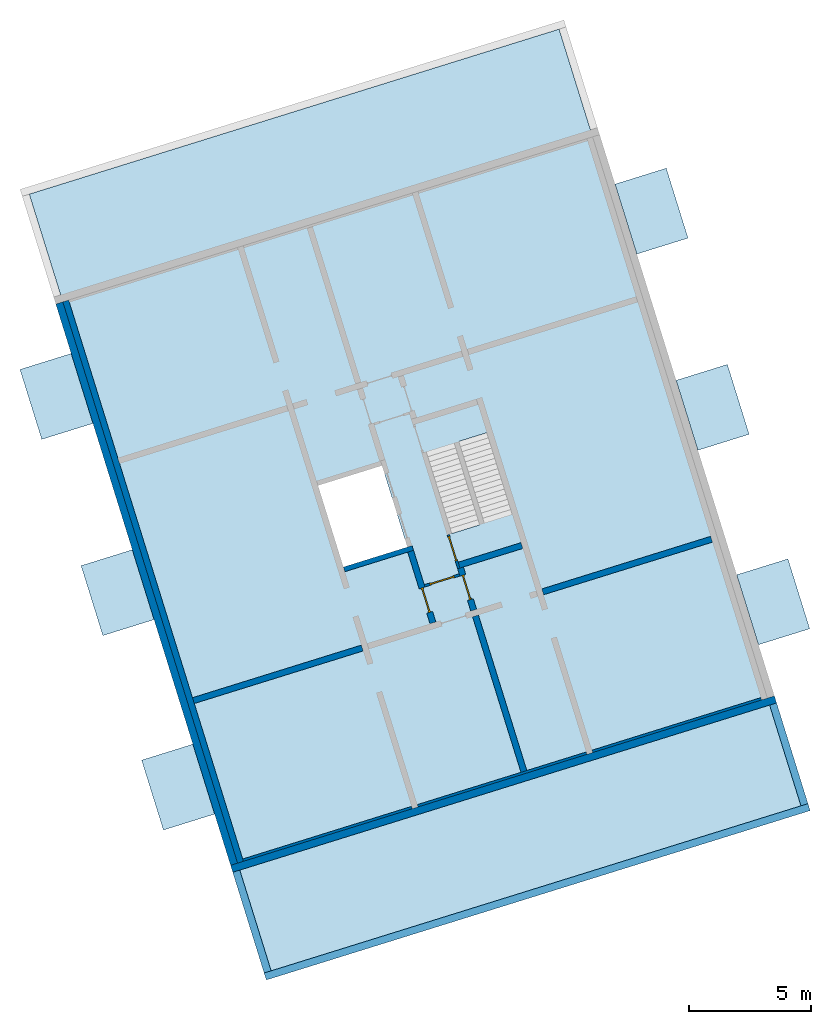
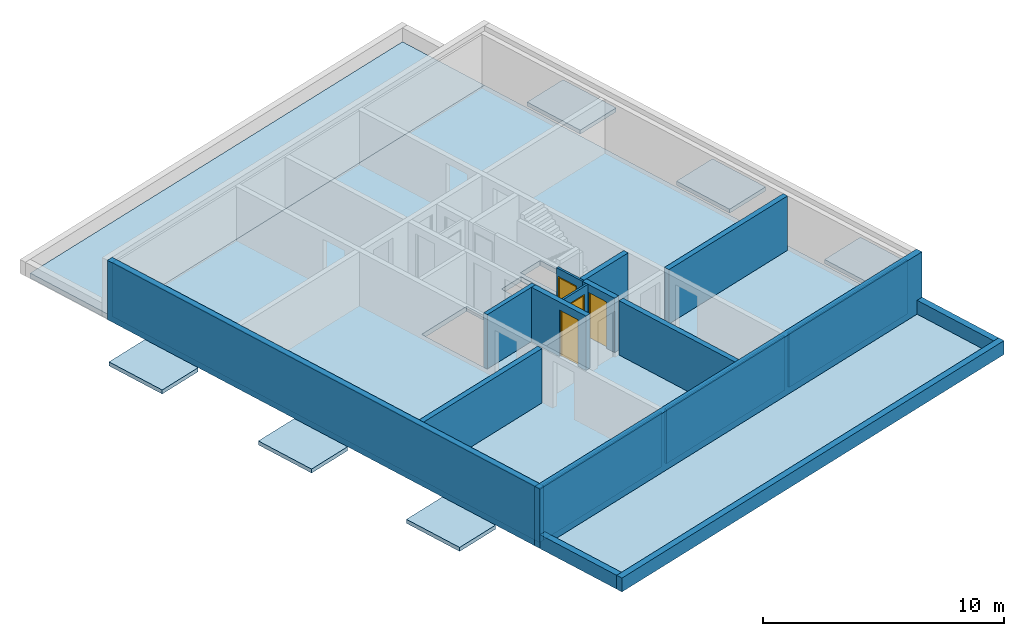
# One storey, part 1 of 4: 18 walls, 9 slabs, 4 doors, 6 openings.
"""IFC4 building model written with IfcOpenShell, lengths in metres."""

from ifc_helpers import new_model, entity, si_unit, converted_unit, direction, frame, origin, place, context, subcontext, project, spatial, indexed_curve, outline, extrude, polygons, source, transform, mapped, material, constituent, constituent_set, type_object, type_shapes, element, fill, save


model = new_model("IFC4")

# Units and contexts
model_context = context("Model", 3, precision=1e-05, world=origin(), true_north=direction((6.12323399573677e-17, 1.0)))
body_context = subcontext(model_context, "Body", "Model", "MODEL_VIEW")
ifc_project = project(units=[si_unit("LENGTHUNIT", "METRE"), si_unit("AREAUNIT", "SQUARE_METRE"), si_unit("VOLUMEUNIT", "CUBIC_METRE"), converted_unit("PLANEANGLEUNIT", "DEGREE", entity("IfcPlaneAngleMeasure", 0.0174532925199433), si_unit("PLANEANGLEUNIT", "RADIAN"), dimensions=[0, 0, 0, 0, 0, 0, 0])], contexts=[model_context])

# Site, building, storey
site_placement = place(None, frame((13.1347999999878, 11.9886000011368, 0.0), z_axis=(0.0, 0.0, 1.0), x_axis=(0.954770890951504, 0.297342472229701, 0.0)))
site = spatial("IfcSite", under=ifc_project, at=site_placement, Name="Schiehaven", CompositionType="ELEMENT")
building_placement = place(site_placement, origin())
building = spatial("IfcBuilding", under=site, at=building_placement, Name="VORM huis", CompositionType="ELEMENT")
storey_placement = place(building_placement, frame((0.0, 0.0, 6.9)))
storey = spatial("IfcBuildingStorey", under=building, at=storey_placement, Name="02 tweede verdieping", CompositionType="ELEMENT", Elevation=6.9)

# Slab, openings
ifc_material_1 = material(Name="beton_gewapend_ihw", Category="Miscellaneous")
slab_type_1 = type_object("IfcSlabType", Name="Floor:28_FL_skelet_vloer 250mm", PredefinedType="FLOOR", material=ifc_material_1)
slab_1_placement = place(storey_placement, origin())
slab_1 = element("IfcSlab", 1, at=slab_1_placement, inside=storey, type_object=slab_type_1, material=ifc_material_1, Name="Constructieve vloer", ObjectType="Vloer", PredefinedType="FLOOR", context=body_context, shape_type="SweptSolid", body=[
    extrude(outline(indexed_curve([(-12.05, -11.375), (12.05, -11.375), (12.05, 11.375), (-12.05, 11.375), (-12.05, -11.375)], self_intersect=False), holes=[indexed_curve([(-1.75000000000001, -3.62500000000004), (-1.75000000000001, -0.875000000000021), (1.74999999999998, -0.875000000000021), (1.74999999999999, -3.62500000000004), (-1.75000000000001, -3.62500000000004)], self_intersect=False), indexed_curve([(1.76, 2.22499999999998), (1.76, 1.02499999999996), (-1.54, 1.02499999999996), (-1.54, 2.22499999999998), (1.76, 2.22499999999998)], self_intersect=False), indexed_curve([(-1.75999999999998, 3.62499999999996), (1.54, 3.62499999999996), (1.54, 2.42499999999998), (-1.75999999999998, 2.42499999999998), (-1.75999999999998, 3.62499999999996)], self_intersect=False)]), frame((16.2500000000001, 17.05, -0.249999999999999), z_axis=(0.0, 0.0, 1.0), x_axis=(0.0, -1.0, 0.0)), (0.0, 0.0, 1.0), 0.249999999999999),
])
opening_1_placement = place(slab_1_placement, origin())
element("IfcOpeningElement", 2, at=opening_1_placement, cuts=slab_1, Name="Constructieve vloer", PredefinedType="OPENING", context=body_context, shape_type="SweptSolid", body=[
    extrude(outline(indexed_curve([(-1.74999999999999, -1.37500000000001), (1.75, -1.37500000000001), (1.75, 1.37500000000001), (-1.75, 1.37500000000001), (-1.74999999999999, -1.37500000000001)], self_intersect=False)), frame((14.0, 17.05, -0.249999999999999), z_axis=(0.0, 0.0, 1.0), x_axis=(0.0, -1.0, 0.0)), (0.0, 0.0, 1.0), 0.249999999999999),
])
opening_2_placement = place(slab_1_placement, origin())
element("IfcOpeningElement", 3, at=opening_2_placement, cuts=slab_1, Name="Constructieve vloer", PredefinedType="OPENING", context=body_context, shape_type="SweptSolid", body=[
    extrude(outline(indexed_curve([(-1.65, -0.60000000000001), (1.65, -0.600000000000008), (1.65, 0.600000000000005), (-1.65, 0.600000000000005), (-1.65, -0.60000000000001)], self_intersect=False)), frame((17.8750000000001, 16.94, -0.249999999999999), z_axis=(0.0, 0.0, 1.0), x_axis=(0.0, 1.0, 0.0)), (0.0, 0.0, 1.0), 0.249999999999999),
])

# Slabs
ifc_material_2 = material(Name="beton_gewapend_prefab-element", Category="Miscellaneous")
slab_type_2 = type_object("IfcSlabType", Name="Floor:23_FL_skelet_balkon 200mm", PredefinedType="FLOOR", material=ifc_material_2)
slab_2_placement = place(storey_placement, origin())
element("IfcSlab", 4, at=slab_2_placement, inside=storey, type_object=slab_type_2, material=ifc_material_2, Name="Balkonvloer", ObjectType="Vloer", PredefinedType="FLOOR", context=body_context, shape_type="SweptSolid", body=[
    extrude(outline(indexed_curve([(-1.5, -1.1), (1.5, -1.1), (1.5, 1.09999999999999), (-1.5, 1.09999999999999), (-1.5, -1.1)], self_intersect=False)), frame((29.0250000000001, 25.475, 0.0), z_axis=(0.0, 0.0, -1.0), x_axis=(0.0, 1.0, 0.0)), (0.0, 0.0, 1.0), 0.2),
])
slab_3_placement = place(storey_placement, origin())
element("IfcSlab", 5, at=slab_3_placement, inside=storey, type_object=slab_type_2, material=ifc_material_2, Name="Balkonvloer", ObjectType="Vloer", PredefinedType="FLOOR", context=body_context, shape_type="SweptSolid", body=[
    extrude(outline(indexed_curve([(-1.5, -1.1), (1.5, -1.1), (1.5, 1.1), (-1.5, 1.1), (-1.5, -1.1)], self_intersect=False)), frame((29.0250000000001, 8.70000000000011, 0.0), z_axis=(0.0, 0.0, -1.0), x_axis=(0.0, 1.0, 0.0)), (0.0, 0.0, 1.0), 0.2),
])
slab_4_placement = place(storey_placement, origin())
element("IfcSlab", 6, at=slab_4_placement, inside=storey, type_object=slab_type_2, material=ifc_material_2, Name="Balkonvloer", ObjectType="Vloer", PredefinedType="FLOOR", context=body_context, shape_type="SweptSolid", body=[
    extrude(outline(indexed_curve([(-1.5, -1.1), (1.5, -1.1), (1.5, 1.1), (-1.5, 1.1), (-1.5, -1.1)], self_intersect=False)), frame((29.0250000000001, 17.05, 0.0), z_axis=(0.0, 0.0, -1.0), x_axis=(0.0, 1.0, 0.0)), (0.0, 0.0, 1.0), 0.2),
])
slab_5_placement = place(storey_placement, origin())
element("IfcSlab", 7, at=slab_5_placement, inside=storey, type_object=slab_type_2, material=ifc_material_2, Name="Balkonvloer", ObjectType="Vloer", PredefinedType="FLOOR", context=body_context, shape_type="SweptSolid", body=[
    extrude(outline(indexed_curve([(-1.5, -1.09999999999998), (1.5, -1.09999999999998), (1.5, 1.09999999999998), (-1.5, 1.09999999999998), (-1.5, -1.09999999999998)], self_intersect=False)), frame((3.47500000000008, 25.4750000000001, 0.0), z_axis=(0.0, 0.0, -1.0), x_axis=(0.0, 1.0, 0.0)), (0.0, 0.0, 1.0), 0.2),
])
slab_6_placement = place(storey_placement, origin())
element("IfcSlab", 8, at=slab_6_placement, inside=storey, type_object=slab_type_2, material=ifc_material_2, Name="Balkonvloer", ObjectType="Vloer", PredefinedType="FLOOR", context=body_context, shape_type="SweptSolid", body=[
    extrude(outline(indexed_curve([(-1.5, -1.10000000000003), (1.5, -1.10000000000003), (1.5, 1.10000000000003), (-1.5, 1.10000000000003), (-1.5, -1.10000000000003)], self_intersect=False)), frame((3.47499999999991, 8.70000000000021, 0.0), z_axis=(0.0, 0.0, -1.0), x_axis=(0.0, 1.0, 0.0)), (0.0, 0.0, 1.0), 0.2),
])
slab_7_placement = place(storey_placement, origin())
element("IfcSlab", 9, at=slab_7_placement, inside=storey, type_object=slab_type_2, material=ifc_material_2, Name="Balkonvloer", ObjectType="Vloer", PredefinedType="FLOOR", context=body_context, shape_type="SweptSolid", body=[
    extrude(outline(indexed_curve([(-1.5, -1.10000000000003), (1.5, -1.10000000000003), (1.5, 1.10000000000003), (-1.5, 1.10000000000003), (-1.5, -1.10000000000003)], self_intersect=False)), frame((3.47499999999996, 17.0500000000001, 0.0), z_axis=(0.0, 0.0, -1.0), x_axis=(0.0, 1.0, 0.0)), (0.0, 0.0, 1.0), 0.2),
])
slab_type_3 = type_object("IfcSlabType", Name="Floor:28_FL_skelet_dakterrasvloer 250mm", PredefinedType="ROOF", material=ifc_material_1)
slab_8_placement = place(storey_placement, origin())
element("IfcSlab", 10, at=slab_8_placement, inside=storey, type_object=slab_type_3, material=ifc_material_1, Name="Begaanbare dakvloer", ObjectType="Vloer", PredefinedType="ROOF", context=body_context, shape_type="SweptSolid", body=[
    extrude(outline(indexed_curve([(-2.3125000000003, -11.3750000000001), (2.3125000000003, -11.3750000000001), (2.3125000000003, 11.3750000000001), (-2.3125000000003, 11.3750000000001), (-2.3125000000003, -11.3750000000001)], self_intersect=False)), frame((16.25, 2.68750000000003, 0.0), z_axis=(0.0, 0.0, -1.0), x_axis=(0.0, 1.0, 0.0)), (0.0, 0.0, 1.0), 0.249999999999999),
])
slab_9_placement = place(storey_placement, origin())
element("IfcSlab", 11, at=slab_9_placement, inside=storey, type_object=slab_type_3, material=ifc_material_1, Name="Begaanbare dakvloer", ObjectType="Vloer", PredefinedType="ROOF", context=body_context, shape_type="SweptSolid", body=[
    extrude(outline(indexed_curve([(-2.31249999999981, -11.375), (2.31249999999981, -11.375), (2.31249999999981, 11.375), (-2.31249999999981, 11.375), (-2.31249999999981, -11.375)], self_intersect=False)), frame((16.2500000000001, 31.4125, 0.0), z_axis=(0.0, 0.0, -1.0), x_axis=(0.0, 1.0, 0.0)), (0.0, 0.0, 1.0), 0.249999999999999),
])

# Walls
wall_type_1 = type_object("IfcWallType", Name="Basic Wall:28_WA_skelet_wand 250mm_gen", PredefinedType="STANDARD")
wall_1_placement = place(storey_placement, frame((5.0, 5.0, 0.0), z_axis=(0.0, 0.0, 1.0), x_axis=(0.0, 1.0, 0.0)))
element("IfcWall", 12, at=wall_1_placement, inside=storey, type_object=wall_type_1, material=ifc_material_1, Name="Constructieve wand", ObjectType="Wand", PredefinedType="NOTDEFINED", context=body_context, shape_type="SweptSolid", body=[
    extrude(outline(indexed_curve([(24.1, 0.125), (4.21737840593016e-16, 0.125), (-4.21737840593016e-16, -0.125), (24.1, -0.125), (24.1, 0.125)], self_intersect=False)), origin(), (0.0, 0.0, 1.0), 2.75),
])
ifc_material_3 = material(Name="ntb_ntb_ntb", Category="Miscellaneous")
wall_type_2 = type_object("IfcWallType", Name="Basic Wall:21_WA_gevel_binnenspouwwand 100mm_gen", PredefinedType="STANDARD")
wall_2_placement = place(storey_placement, frame((5.12500000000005, 5.05000000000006, 0.0)))
element("IfcWall", 13, at=wall_2_placement, inside=storey, type_object=wall_type_2, material=ifc_material_3, Name="Binnenspouwblad", ObjectType="Wand", PredefinedType="NOTDEFINED", context=body_context, shape_type="SweptSolid", body=[
    extrude(outline(indexed_curve([(7.24999999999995, 0.0500000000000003), (-1.84844170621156e-16, 0.0500000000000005), (1.84844170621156e-16, -0.0500000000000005), (7.24999999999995, -0.0500000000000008), (7.24999999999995, 0.0500000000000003)], self_intersect=False)), origin(), (0.0, 0.0, 1.0), 2.75),
])
wall_3_placement = place(storey_placement, frame((19.875, 5.04999999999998, 0.0), z_axis=(0.0, 0.0, 1.0), x_axis=(-1.0, 0.0, 0.0)))
element("IfcWall", 14, at=wall_3_placement, inside=storey, type_object=wall_type_2, material=ifc_material_3, Name="Binnenspouwblad", ObjectType="Wand", PredefinedType="NOTDEFINED", context=body_context, shape_type="SweptSolid", body=[
    extrude(outline(indexed_curve([(7.24999999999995, 0.050000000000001), (-3.3903742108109e-16, 0.0500000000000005), (3.3903742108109e-16, -0.0500000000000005), (7.24999999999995, -0.0500000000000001), (7.24999999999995, 0.050000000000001)], self_intersect=False)), origin(), (0.0, 0.0, 1.0), 2.75),
])
wall_4_placement = place(storey_placement, frame((20.1250000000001, 5.04999999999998, 0.0)))
element("IfcWall", 15, at=wall_4_placement, inside=storey, type_object=wall_type_2, material=ifc_material_3, Name="Binnenspouwblad", ObjectType="Wand", PredefinedType="NOTDEFINED", context=body_context, shape_type="SweptSolid", body=[
    extrude(outline(indexed_curve([(7.24999999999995, 0.0499999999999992), (-1.84844170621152e-16, 0.0499999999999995), (1.84844170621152e-16, -0.0499999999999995), (7.24999999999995, -0.0499999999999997), (7.24999999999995, 0.0499999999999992)], self_intersect=False)), origin(), (0.0, 0.0, 1.0), 2.75),
])
wall_type_3 = type_object("IfcWallType", Name="Basic Wall: 300mm_gen", PredefinedType="STANDARD")
wall_5_placement = place(storey_placement, frame((4.72500000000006, 5.0, 0.0), z_axis=(0.0, 0.0, 1.0), x_axis=(0.0, 1.0, 0.0)))
element("IfcWall", 16, at=wall_5_placement, inside=storey, type_object=wall_type_3, material=ifc_material_3, Name="Gevelwand", ObjectType="Wand", PredefinedType="NOTDEFINED", context=body_context, shape_type="SweptSolid", body=[
    extrude(outline(indexed_curve([(24.1, 0.15), (-3.8304924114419e-16, 0.15), (-6.99817888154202e-16, -0.15), (24.1, -0.15), (24.1, 0.15)], self_intersect=False)), origin(), (0.0, 0.0, 1.0), 3.0),
])
wall_6_placement = place(storey_placement, frame((27.9250000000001, 4.85000000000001, 0.0), z_axis=(0.0, 0.0, 1.0), x_axis=(-1.0, 0.0, 0.0)))
element("IfcWall", 17, at=wall_6_placement, inside=storey, type_object=wall_type_3, material=ifc_material_3, Name="Gevelwand", ObjectType="Wand", PredefinedType="NOTDEFINED", context=body_context, shape_type="SweptSolid", body=[
    extrude(outline(indexed_curve([(23.35, 0.15), (-3.8304924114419e-16, 0.15), (3.83049241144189e-16, -0.149999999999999), (23.35, -0.149999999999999), (23.35, 0.15)], self_intersect=False)), origin(), (0.0, 0.0, 1.0), 3.0),
])
wall_7_placement = place(storey_placement, frame((4.72500000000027, 4.69999999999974, 0.0), z_axis=(0.0, 0.0, 1.0), x_axis=(0.0, -1.0, 0.0)))
element("IfcWall", 18, at=wall_7_placement, inside=storey, type_object=wall_type_3, material=ifc_material_3, Name="Gevelwand", ObjectType="Wand", PredefinedType="NOTDEFINED", context=body_context, shape_type="SweptSolid", body=[
    extrude(outline(indexed_curve([(4.32500000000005, 0.15), (-3.95675958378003e-17, 0.15), (3.95675958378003e-17, -0.15), (4.32500000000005, -0.15), (4.32500000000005, 0.15)], self_intersect=False)), origin(), (0.0, 0.0, 1.0), 0.700000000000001),
])
wall_8_placement = place(storey_placement, frame((4.57500000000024, 0.224999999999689, 0.0)))
element("IfcWall", 19, at=wall_8_placement, inside=storey, type_object=wall_type_3, material=ifc_material_3, Name="Gevelwand", ObjectType="Wand", PredefinedType="NOTDEFINED", context=body_context, shape_type="SweptSolid", body=[
    extrude(outline(indexed_curve([(23.35, 0.15), (-2.88288365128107e-16, 0.15), (-7.94578764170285e-16, -0.15), (23.35, -0.15), (23.35, 0.15)], self_intersect=False)), origin(), (0.0, 0.0, 1.0), 0.700000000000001),
])
wall_9_placement = place(storey_placement, frame((27.7750000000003, 0.374999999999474, 0.0), z_axis=(0.0, 0.0, 1.0), x_axis=(0.0, 1.0, 0.0)))
element("IfcWall", 20, at=wall_9_placement, inside=storey, type_object=wall_type_3, material=ifc_material_3, Name="Gevelwand", ObjectType="Wand", PredefinedType="NOTDEFINED", context=body_context, shape_type="SweptSolid", body=[
    extrude(outline(indexed_curve([(4.32500000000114, 0.150000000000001), (-6.26192158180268e-17, 0.150000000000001), (6.26192158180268e-17, -0.150000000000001), (4.32500000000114, -0.15), (4.32500000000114, 0.150000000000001)], self_intersect=False)), origin(), (0.0, 0.0, 1.0), 0.700000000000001),
])
wall_type_4 = type_object("IfcWallType", Name="Basic Wall:28_WA_skelet_wand 200mm_gen", PredefinedType="STANDARD")
wall_10_placement = place(storey_placement, frame((12.6250000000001, 15.2, 0.0)))
element("IfcWall", 21, at=wall_10_placement, inside=storey, type_object=wall_type_4, material=ifc_material_2, Name="Constructieve wand", ObjectType="Wand", PredefinedType="NOTDEFINED", context=body_context, shape_type="SweptSolid", body=[
    extrude(outline(indexed_curve([(2.95, 0.100000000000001), (-3.51397851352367e-16, 0.100000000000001), (3.51397851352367e-16, -0.100000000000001), (2.95, -0.100000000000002), (2.95, 0.100000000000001)], self_intersect=False)), origin(), (0.0, 0.0, 1.0), 2.75),
])
wall_type_5 = type_object("IfcWallType", Name="Basic Wall:22_WA_afbouw_binnenwand 250mm_gen", PredefinedType="STANDARD")
wall_11_placement = place(storey_placement, frame((20.125, 11.9, 0.0)))
element("IfcWall", 22, at=wall_11_placement, inside=storey, type_object=wall_type_5, material=ifc_material_3, Name="Binnenwand", ObjectType="Wand", PredefinedType="NOTDEFINED", context=body_context, shape_type="SweptSolid", body=[
    extrude(outline(indexed_curve([(7.24999999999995, 0.125), (-1.92055213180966e-16, 0.125), (1.92055213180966e-16, -0.125), (7.24999999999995, -0.124999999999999), (7.24999999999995, 0.125)], self_intersect=False)), origin(), (0.0, 0.0, 1.0), 2.75),
])
wall_12_placement = place(storey_placement, frame((17.2000000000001, 11.775, 0.0), z_axis=(0.0, 0.0, 1.0), x_axis=(0.0, -1.0, 0.0)))
element("IfcWall", 23, at=wall_12_placement, inside=storey, type_object=wall_type_5, material=ifc_material_3, Name="Binnenwand", ObjectType="Wand", PredefinedType="NOTDEFINED", context=body_context, shape_type="SweptSolid", body=[
    extrude(outline(indexed_curve([(6.67500000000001, 0.125000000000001), (-2.98792823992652e-16, 0.125), (2.98792823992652e-16, -0.125), (6.67500000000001, -0.124999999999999), (6.67500000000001, 0.125000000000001)], self_intersect=False)), origin(), (0.0, 0.0, 1.0), 2.75),
])
wall_13_placement = place(storey_placement, frame((12.3750000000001, 11.9, 0.0), z_axis=(0.0, 0.0, 1.0), x_axis=(-1.0, 0.0, 0.0)))
element("IfcWall", 24, at=wall_13_placement, inside=storey, type_object=wall_type_5, material=ifc_material_3, Name="Binnenwand", ObjectType="Wand", PredefinedType="NOTDEFINED", context=body_context, shape_type="SweptSolid", body=[
    extrude(outline(indexed_curve([(7.24999999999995, 0.125), (-1.96773443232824e-16, 0.125), (1.96773443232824e-16, -0.125), (7.24999999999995, -0.124999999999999), (7.24999999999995, 0.125)], self_intersect=False)), origin(), (0.0, 0.0, 1.0), 2.75),
])

# Wall, opening, door
wall_14_placement = place(storey_placement, frame((17.2000000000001, 13.84, 0.0), z_axis=(0.0, 0.0, 1.0), x_axis=(0.0, -1.0, 0.0)))
wall_14 = element("IfcWall", 25, at=wall_14_placement, inside=storey, type_object=wall_type_5, material=ifc_material_3, Name="Binnenwand", ObjectType="Wand", PredefinedType="NOTDEFINED", context=body_context, shape_type="Tessellation", body=[
    polygons([(-2.16573425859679e-15, -0.125, 1.08286712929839e-15), (0.215000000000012, -0.124999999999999, 0.0), (0.315000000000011, -0.124999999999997, 1.08286712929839e-15), (0.315000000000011, -0.124999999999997, 2.34999999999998), (1.36500000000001, -0.124999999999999, 2.34999999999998), (1.36500000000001, -0.124999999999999, 1.08286712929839e-15), (1.81499999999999, -0.125000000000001, 1.08286712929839e-15), (1.81499999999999, -0.125000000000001, 2.75), (0.315000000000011, -0.124999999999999, 2.75), (0.215000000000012, -0.124999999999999, 2.75), (-2.16573425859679e-15, -0.125, 2.75), (0.315000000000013, 0.125, 2.34999999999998), (0.315000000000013, 0.125, 1.08286712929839e-15), (0.0, 0.124999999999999, 1.08286712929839e-15), (0.0, 0.124999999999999, 2.75), (1.81499999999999, 0.124999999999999, 2.75), (1.81499999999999, 0.124999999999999, 1.08286712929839e-15), (1.36500000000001, 0.125, 1.08286712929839e-15), (1.36500000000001, 0.125, 2.34999999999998), (-2.16573425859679e-15, -0.0250000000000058, 0.0), (-2.16573425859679e-15, -0.0250000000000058, 2.75)], [[[1, 2, 3, 4, 5, 6, 7, 8, 9, 10, 11]], [[12, 13, 14, 15, 16, 17, 18, 19]], [[14, 13, 3, 2, 1, 20]], [[8, 7, 17, 16]], [[11, 10, 9, 8, 16, 15, 21]], [[6, 5, 19, 18]], [[4, 3, 13, 12]], [[5, 4, 12, 19]], [[1, 11, 21, 15, 14, 20]], [[18, 17, 7, 6]]], closed=True),
])
opening_3_placement = place(wall_14_placement, frame((1.36500000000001, 0.125000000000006, 0.0)))
opening_3 = element("IfcOpeningElement", 26, at=opening_3_placement, cuts=wall_14, Name="Woningtoegangsdeur", PredefinedType="OPENING", context=body_context, shape_type="SweptSolid", body=[
    extrude(outline(indexed_curve([(2.34999999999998, 1.35358391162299e-15), (2.34999999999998, 1.05), (0.0, 1.05), (0.0, 1.35358391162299e-15), (2.34999999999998, 1.35358391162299e-15)], self_intersect=False)), frame((0.0, 0.0, 0.0), z_axis=(0.0, -1.0, 0.0), x_axis=(0.0, 0.0, 1.0)), (0.0, 0.0, 1.0), 0.25),
])
ifc_material_4 = material(Name="PD_a_binnenwandopeningen", Category="Miscellaneous")
ifc_constituent_1 = constituent(ifc_material_4, Name="PD_a_binnenwandopeningen", Category="Miscellaneous")
ifc_material_5 = material(Name="metaal_aluminium_ntb", Category="Miscellaneous")
ifc_constituent_2 = constituent(ifc_material_5, Name="metaal_aluminium_ntb", Category="Miscellaneous")
ifc_constituent_set_1 = constituent_set(constituents=[ifc_constituent_1, ifc_constituent_2])
ifc_constituent_3 = constituent(ifc_material_4, Name="PD_a_binnenwandopeningen", Category="Miscellaneous")
ifc_constituent_4 = constituent(ifc_material_5, Name="Panel", Category="Miscellaneous")
ifc_constituent_set_2 = constituent_set(constituents=[ifc_constituent_3, ifc_constituent_4])
door_type_1 = type_object("IfcDoorType", Name="32_DO_binnendeur enkel:woningtoegangsdeur", OperationType="REVOLVING", PredefinedType="DOOR", material=ifc_constituent_set_2)
shared_shape_1 = source(origin(), body_context, "Body", "SweptSolid", [
    extrude(outline(indexed_curve([(0.475, -1.16249999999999), (0.525000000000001, -1.16249999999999), (0.525000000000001, 1.18749999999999), (-0.525000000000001, 1.18749999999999), (-0.525000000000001, -1.16249999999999), (-0.475, -1.16249999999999), (-0.475, 1.13749999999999), (0.475, 1.13749999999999), (0.475, -1.16249999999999)], self_intersect=False)), frame((0.525000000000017, 0.174999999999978, 1.16249999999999), z_axis=(0.0, -1.0, 0.0), x_axis=(1.0, 0.0, 0.0)), (0.0, 0.0, 1.0), 0.1),
    extrude(outline(indexed_curve([(-0.475, -0.025), (0.475, -0.025), (0.475, 0.025), (-0.475, 0.025), (-0.475, -0.025)], self_intersect=False)), frame((0.525000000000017, 0.12499999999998, 0.0)), (0.0, 0.0, 1.0), 2.29999999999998),
])
type_shapes(door_type_1, [shared_shape_1])
door_1_placement = place(opening_3_placement, frame((0.0, 0.0, 0.0), z_axis=(0.0, 0.0, 1.0), x_axis=(-1.0, 0.0, 0.0)))
door_1 = element("IfcDoor", 27, at=door_1_placement, inside=storey, type_object=door_type_1, material=ifc_constituent_set_1, Name="Woningtoegangsdeur", ObjectType="Deur", OperationType="REVOLVING", OverallHeight=2.34999999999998, OverallWidth=1.05, PredefinedType="DOOR", context=body_context, shape_type="MappedRepresentation", body=[
    mapped(shared_shape_1, transform((0.0, 0.0, 0.0), scale=1.0)),
])
fill(opening_3, door_1)

wall_15_placement = place(storey_placement, frame((15.4500000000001, 15.1, 0.0), z_axis=(0.0, 0.0, 1.0), x_axis=(0.0, -1.0, 0.0)))
wall_15 = element("IfcWall", 28, at=wall_15_placement, inside=storey, type_object=wall_type_5, material=ifc_material_3, Name="Binnenwand", ObjectType="Wand", PredefinedType="NOTDEFINED", context=body_context, shape_type="Tessellation", body=[
    polygons([(2.62500000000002, -0.124999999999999, 2.34999999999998), (2.62500000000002, -0.124999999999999, 1.08286712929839e-15), (3.07499999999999, -0.124999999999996, 1.08286712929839e-15), (3.07499999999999, -0.124999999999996, 2.75), (0.0, -0.125000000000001, 2.75), (0.0, -0.125000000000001, 1.08286712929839e-15), (1.57500000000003, -0.124999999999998, 1.08286712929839e-15), (1.57500000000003, -0.124999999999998, 2.34999999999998), (3.07499999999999, 0.125000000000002, 1.08286712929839e-15), (2.62500000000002, 0.125000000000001, 1.08286712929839e-15), (2.62500000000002, 0.125000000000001, 2.34999999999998), (1.57500000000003, 0.125000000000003, 2.34999999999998), (1.57500000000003, 0.125000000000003, 1.08286712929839e-15), (1.475, 0.125000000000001, 0.0), (0.0, 0.125000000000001, 1.08286712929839e-15), (0.0, 0.125000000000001, 2.75), (1.475, 0.125000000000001, 2.75), (1.575, 0.125000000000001, 2.75), (3.07499999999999, 0.125000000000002, 2.75)], [[[1, 2, 3, 4, 5, 6, 7, 8]], [[9, 10, 11, 12, 13, 14, 15, 16, 17, 18, 19]], [[7, 6, 15, 14, 13]], [[4, 3, 9, 19]], [[5, 4, 19, 18, 17, 16]], [[6, 5, 16, 15]], [[13, 12, 8, 7]], [[11, 10, 2, 1]], [[12, 11, 1, 8]], [[3, 2, 10, 9]]], closed=True),
])
opening_4_placement = place(wall_15_placement, frame((1.57500000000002, -0.124999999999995, 0.0)))
opening_4 = element("IfcOpeningElement", 29, at=opening_4_placement, cuts=wall_15, Name="Woningtoegangsdeur", PredefinedType="OPENING", context=body_context, shape_type="SweptSolid", body=[
    extrude(outline(indexed_curve([(2.34999999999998, 1.35358391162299e-15), (2.34999999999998, 1.05), (0.0, 1.05), (0.0, 1.35358391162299e-15), (2.34999999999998, 1.35358391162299e-15)], self_intersect=False)), frame((0.0, 0.0, 0.0), z_axis=(0.0, 1.0, 0.0), x_axis=(0.0, 0.0, 1.0)), (0.0, 0.0, 1.0), 0.25),
])
ifc_constituent_5 = constituent(ifc_material_4, Name="PD_a_binnenwandopeningen", Category="Miscellaneous")
ifc_constituent_6 = constituent(ifc_material_5, Name="metaal_aluminium_ntb", Category="Miscellaneous")
ifc_constituent_set_3 = constituent_set(constituents=[ifc_constituent_5, ifc_constituent_6])
door_2_placement = place(opening_4_placement, origin())
door_2 = element("IfcDoor", 30, at=door_2_placement, inside=storey, type_object=door_type_1, material=ifc_constituent_set_3, Name="Woningtoegangsdeur", ObjectType="Deur", OperationType="REVOLVING", OverallHeight=2.34999999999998, OverallWidth=1.05, PredefinedType="DOOR", context=body_context, shape_type="MappedRepresentation", body=[
    mapped(shared_shape_1, transform((0.0, 0.0, 0.0), scale=1.0)),
])
fill(opening_4, door_2)

# Wall
wall_16_placement = place(storey_placement, frame((19.8750000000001, 13.965, 0.0), z_axis=(0.0, 0.0, 1.0), x_axis=(-1.0, 0.0, 0.0)))
element("IfcWall", 31, at=wall_16_placement, inside=storey, type_object=wall_type_5, material=ifc_material_3, Name="Binnenwand", ObjectType="Wand", PredefinedType="NOTDEFINED", context=body_context, shape_type="SweptSolid", body=[
    extrude(outline(indexed_curve([(2.70000000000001, 0.124999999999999), (-3.69797181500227e-16, 0.125), (3.69797181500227e-16, -0.125), (2.70000000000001, -0.125), (2.70000000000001, 0.124999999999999)], self_intersect=False)), origin(), (0.0, 0.0, 1.0), 2.75),
])

# Wall, opening, door
wall_type_6 = type_object("IfcWallType", Name="Basic Wall:22_WA_afbouw_binnenwand 100mm_gen", PredefinedType="STANDARD")
wall_17_placement = place(storey_placement, frame((17.1250000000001, 13.84, 0.0), z_axis=(0.0, 0.0, 1.0), x_axis=(0.0, 1.0, 0.0)))
wall_17 = element("IfcWall", 32, at=wall_17_placement, inside=storey, type_object=wall_type_6, material=ifc_material_3, Name="Binnenwand", ObjectType="Wand", PredefinedType="NOTDEFINED", context=body_context, shape_type="Tessellation", body=[
    polygons([(1.44999999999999, -0.0500000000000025, 1.08286712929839e-15), (1.44999999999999, -0.0500000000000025, 2.75), (0.249999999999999, -0.0500000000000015, 2.75), (0.0, -0.0500000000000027, 2.75), (0.0, -0.0500000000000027, 1.08286712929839e-15), (0.249999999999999, -0.0500000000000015, 0.0), (0.324999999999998, -0.0500000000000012, 1.08286712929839e-15), (0.324999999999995, -0.0500000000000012, 2.34999999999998), (1.375, -0.0500000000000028, 2.34999999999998), (1.375, -0.0500000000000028, 1.08286712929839e-15), (1.44999999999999, 0.0499999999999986, 2.75), (1.44999999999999, 0.0499999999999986, 1.08286712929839e-15), (1.37499999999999, 0.0499999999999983, 1.08286712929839e-15), (1.37499999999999, 0.0500000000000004, 2.34999999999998), (0.324999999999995, 0.0500000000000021, 2.34999999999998), (0.324999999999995, 0.0499999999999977, 1.08286712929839e-15), (-2.16573425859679e-15, 0.0500000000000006, 1.08286712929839e-15), (-2.16573425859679e-15, 0.0500000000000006, 2.75)], [[[1, 2, 3, 4, 5, 6, 7, 8, 9, 10]], [[11, 12, 13, 14, 15, 16, 17, 18]], [[5, 17, 16, 7, 6]], [[2, 1, 12, 11]], [[4, 3, 2, 11, 18]], [[15, 8, 7, 16]], [[9, 14, 13, 10]], [[8, 15, 14, 9]], [[5, 4, 18, 17]], [[12, 1, 10, 13]]], closed=True),
])
opening_5_placement = place(wall_17_placement, frame((1.375, 0.0499999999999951, 0.0)))
opening_5 = element("IfcOpeningElement", 33, at=opening_5_placement, cuts=wall_17, Name="Vluchtdeur", PredefinedType="OPENING", context=body_context, shape_type="SweptSolid", body=[
    extrude(outline(indexed_curve([(2.34999999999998, 1.05), (0.0, 1.05), (0.0, 1.35358391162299e-15), (2.34999999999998, 1.35358391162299e-15), (2.34999999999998, 1.05)], self_intersect=False)), frame((0.0, 0.0, 0.0), z_axis=(0.0, -1.0, 0.0), x_axis=(0.0, 0.0, 1.0)), (0.0, 0.0, 1.0), 0.1),
])
ifc_constituent_7 = constituent(ifc_material_4, Name="PD_a_binnenwandopeningen", Category="Miscellaneous")
ifc_constituent_8 = constituent(ifc_material_5, Name="metaal_aluminium_ntb", Category="Miscellaneous")
ifc_constituent_set_4 = constituent_set(constituents=[ifc_constituent_7, ifc_constituent_8])
ifc_constituent_9 = constituent(ifc_material_4, Name="PD_a_binnenwandopeningen", Category="Miscellaneous")
ifc_constituent_10 = constituent(ifc_material_5, Name="Panel", Category="Miscellaneous")
ifc_constituent_set_5 = constituent_set(constituents=[ifc_constituent_9, ifc_constituent_10])
door_type_2 = type_object("IfcDoorType", Name="32_DO_binnendeur enkel:binnendeur zelfsluitend 30min", OperationType="NOTDEFINED", PredefinedType="DOOR", material=ifc_constituent_set_5)
shared_shape_2 = source(origin(), body_context, "Body", "SweptSolid", [
    extrude(outline(indexed_curve([(-1.16249999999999, -0.525000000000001), (1.18749999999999, -0.525), (1.18749999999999, 0.525), (-1.16249999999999, 0.525), (-1.16249999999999, 0.475), (1.13749999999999, 0.475), (1.13749999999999, -0.475), (-1.16249999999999, -0.475), (-1.16249999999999, -0.525000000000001)], self_intersect=False)), frame((0.525000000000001, 0.0, 1.16249999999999), z_axis=(0.0, 1.0, 0.0), x_axis=(0.0, 0.0, 1.0)), (0.0, 0.0, 1.0), 0.1),
    extrude(outline(indexed_curve([(-0.025, -0.475), (0.025, -0.475), (0.025, 0.475), (-0.025, 0.475), (-0.025, -0.475)], self_intersect=False)), frame((0.525000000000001, 0.0499999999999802, 0.0), z_axis=(0.0, 0.0, 1.0), x_axis=(0.0, 1.0, 0.0)), (0.0, 0.0, 1.0), 2.29999999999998),
])
type_shapes(door_type_2, [shared_shape_2])
door_3_placement = place(opening_5_placement, frame((0.0, 0.0, 0.0), z_axis=(0.0, 0.0, 1.0), x_axis=(-1.0, 0.0, 0.0)))
door_3 = element("IfcDoor", 34, at=door_3_placement, inside=storey, type_object=door_type_2, material=ifc_constituent_set_4, Name="Vluchtdeur", ObjectType="Deur", OperationType="NOTDEFINED", OverallHeight=2.34999999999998, OverallWidth=1.05, PredefinedType="DOOR", context=body_context, shape_type="MappedRepresentation", body=[
    mapped(shared_shape_2, transform((0.0, 0.0, 0.0), scale=1.0)),
])
fill(opening_5, door_3)

wall_18_placement = place(storey_placement, frame((17.0750000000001, 13.575, 0.0), z_axis=(0.0, 0.0, 1.0), x_axis=(-1.0, 0.0, 0.0)))
wall_18 = element("IfcWall", 35, at=wall_18_placement, inside=storey, type_object=wall_type_6, material=ifc_material_3, Name="Binnenwand", ObjectType="Wand", PredefinedType="NOTDEFINED", context=body_context, shape_type="Tessellation", body=[
    polygons([(1.5, -0.0499999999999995, 2.75), (-1.35141276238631e-15, -0.0499999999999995, 2.75), (-1.35141276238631e-15, -0.0499999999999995, 1.08286712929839e-15), (0.224999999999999, -0.0499999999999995, 1.08286712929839e-15), (0.224999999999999, -0.0499999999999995, 2.34999999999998), (1.275, -0.0499999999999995, 2.34999999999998), (1.275, -0.0499999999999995, 1.08286712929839e-15), (1.5, -0.0499999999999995, 1.08286712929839e-15), (-2.16804959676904e-15, 0.0500000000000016, 2.75), (1.5, 0.0499999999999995, 2.75), (1.50000000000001, 0.0499999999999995, 2.34999999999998), (1.5, 0.0499999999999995, 1.08286712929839e-15), (1.275, 0.0499999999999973, 1.08286712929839e-15), (1.275, 0.0499999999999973, 2.34999999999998), (0.224999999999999, 0.0500000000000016, 2.34999999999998), (0.224999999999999, 0.0500000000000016, 1.08286712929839e-15), (-2.16804959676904e-15, 0.0500000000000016, 1.08286712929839e-15), (-2.31533817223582e-18, 0.0499999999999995, 2.34999999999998)], [[[1, 2, 3, 4, 5, 6, 7, 8]], [[9, 10, 11, 12, 13, 14, 15, 16, 17, 18]], [[3, 17, 16, 4]], [[2, 1, 10, 9]], [[15, 5, 4, 16]], [[5, 15, 14, 6]], [[6, 14, 13, 7]], [[3, 2, 9, 18, 17]], [[1, 8, 12, 11, 10]], [[12, 8, 7, 13]]], closed=True),
])
opening_6_placement = place(wall_18_placement, frame((1.275, 0.0499999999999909, 0.0)))
opening_6 = element("IfcOpeningElement", 36, at=opening_6_placement, cuts=wall_18, Name="Vluchtdeur", PredefinedType="OPENING", context=body_context, shape_type="SweptSolid", body=[
    extrude(outline(indexed_curve([(2.34999999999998, 1.35358391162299e-15), (2.34999999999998, 1.05), (0.0, 1.05), (0.0, 1.35358391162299e-15), (2.34999999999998, 1.35358391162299e-15)], self_intersect=False)), frame((0.0, 0.0, 0.0), z_axis=(0.0, -1.0, 0.0), x_axis=(0.0, 0.0, 1.0)), (0.0, 0.0, 1.0), 0.1),
])
ifc_constituent_11 = constituent(ifc_material_4, Name="PD_a_binnenwandopeningen", Category="Miscellaneous")
ifc_constituent_12 = constituent(ifc_material_5, Name="metaal_aluminium_ntb", Category="Miscellaneous")
ifc_constituent_set_6 = constituent_set(constituents=[ifc_constituent_11, ifc_constituent_12])
ifc_constituent_13 = constituent(ifc_material_4, Name="PD_a_binnenwandopeningen", Category="Miscellaneous")
ifc_constituent_14 = constituent(ifc_material_5, Name="Panel", Category="Miscellaneous")
ifc_constituent_set_7 = constituent_set(constituents=[ifc_constituent_13, ifc_constituent_14])
door_type_3 = type_object("IfcDoorType", Name="32_DO_binnendeur enkel:binnendeur zelfsluitend 30min", OperationType="NOTDEFINED", PredefinedType="DOOR", material=ifc_constituent_set_7)
shared_shape_3 = source(origin(), body_context, "Body", "SweptSolid", [
    extrude(outline(indexed_curve([(0.475, -1.16249999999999), (0.525, -1.16249999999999), (0.525, 1.18749999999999), (-0.525, 1.18749999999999), (-0.525, -1.16249999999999), (-0.475, -1.16249999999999), (-0.475, 1.13749999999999), (0.475, 1.13749999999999), (0.475, -1.16249999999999)], self_intersect=False)), frame((0.525000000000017, 0.100000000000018, 1.16249999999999), z_axis=(0.0, -1.0, 0.0), x_axis=(1.0, 0.0, 0.0)), (0.0, 0.0, 1.0), 0.1),
    extrude(outline(indexed_curve([(-0.475, -0.025), (0.475, -0.025), (0.475, 0.025), (-0.475, 0.025), (-0.475, -0.025)], self_intersect=False)), frame((0.525000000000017, 0.0499999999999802, 0.0)), (0.0, 0.0, 1.0), 2.29999999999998),
])
type_shapes(door_type_3, [shared_shape_3])
door_4_placement = place(opening_6_placement, frame((0.0, 0.0, 0.0), z_axis=(0.0, 0.0, 1.0), x_axis=(-1.0, 0.0, 0.0)))
door_4 = element("IfcDoor", 37, at=door_4_placement, inside=storey, type_object=door_type_3, material=ifc_constituent_set_6, Name="Vluchtdeur", ObjectType="Deur", OperationType="NOTDEFINED", OverallHeight=2.34999999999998, OverallWidth=1.05, PredefinedType="DOOR", context=body_context, shape_type="MappedRepresentation", body=[
    mapped(shared_shape_3, transform((0.0, 0.0, 0.0), scale=1.0)),
])
fill(opening_6, door_4)

save(model, "model.ifc")
